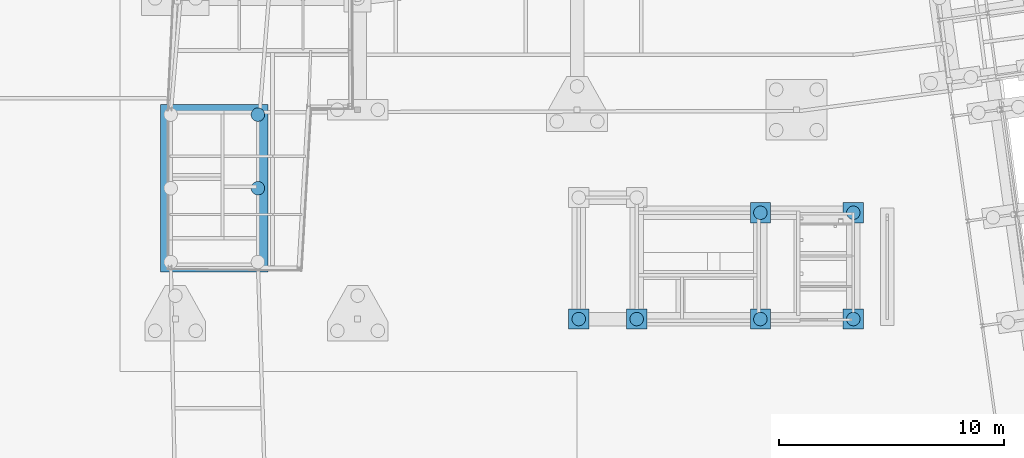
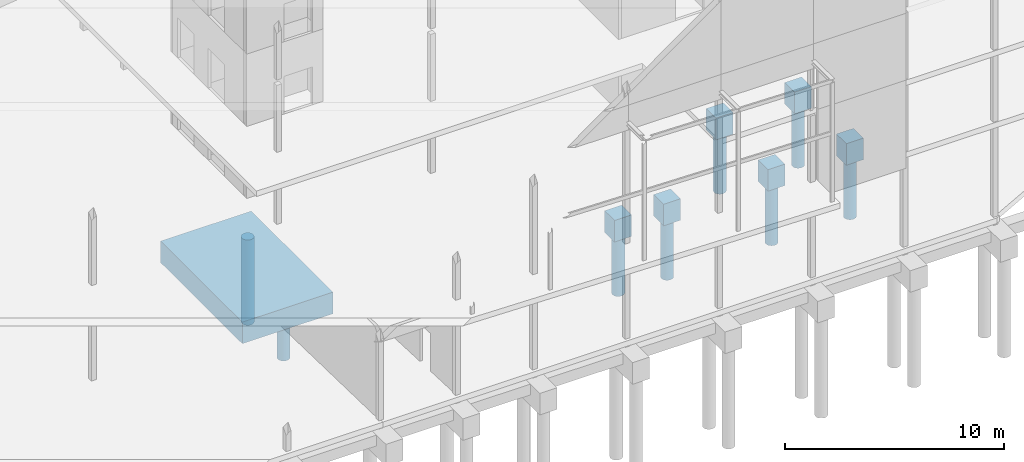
# One storey, part 45 of 82: 15 columns.
"""IFC2X3 building model written with IfcOpenShell, lengths in millimetres."""

import ifcopenshell
import ifcopenshell.guid

model = None  # the IFC model being written
_history = None  # IfcOwnerHistory: only IFC2X3 demands one
_inside = {}  # id of a spatial element -> (the spatial element, [elements in it])
_under = {}  # id of a project, library or spatial element -> (it, [spatial elements below it])
_declared = {}  # id of a project -> (the project, [libraries it declares])
_typed = {}  # id of a type object -> (the type object, [elements of that type])
_made_of = {}  # id of a material, layer set ... -> (it, [elements and type objects made of it])


def new_model(schema):
    """Start an empty IFC model of exactly this schema.

    Asked for "IFC4X3", IfcOpenShell would pick the latest addendum, in which some entities
    have other attributes; the version numbers below select the first issue.
    IFC2X3 requires an IfcOwnerHistory on every rooted entity: one is made here for all.
    """
    global model, _history
    if schema == "IFC4X3":
        model = ifcopenshell.file(schema_version=(4, 3, 0, 0))
    else:
        model = ifcopenshell.file(schema=schema)
    _inside.clear()
    _under.clear()
    _declared.clear()
    _typed.clear()
    _made_of.clear()
    _history = None
    if model.schema == "IFC2X3":
        org = make("IfcOrganization", Name="unknown")
        user = make(
            "IfcPersonAndOrganization",
            ThePerson=make("IfcPerson", FamilyName="unknown"),
            TheOrganization=org,
        )
        app = make(
            "IfcApplication",
            ApplicationDeveloper=org,
            Version="unknown",
            ApplicationFullName="unknown",
            ApplicationIdentifier="unknown",
        )
        _history = make(
            "IfcOwnerHistory",
            OwningUser=user,
            OwningApplication=app,
            ChangeAction="ADDED",
            CreationDate=0,
        )
    return model


def make(cls, **values):
    """One entity of the class cls with the attributes given. An attribute that is None is left unset."""
    return model.create_entity(
        cls, **{name: value for name, value in values.items() if value is not None}
    )


def rooted(cls, **values):
    """An entity with a GlobalId (a new one), such as an element, a storey or a relation."""
    return make(cls, GlobalId=ifcopenshell.guid.new(), OwnerHistory=_history, **values)


def si_unit(unit_type, name, prefix=None):
    """IfcSIUnit, for example si_unit("LENGTHUNIT", "METRE", prefix="MILLI")."""
    return make("IfcSIUnit", UnitType=unit_type, Prefix=prefix, Name=name)


def assignment(units):
    """IfcUnitAssignment: the units of a project."""
    return None if units is None else make("IfcUnitAssignment", Units=units)


def point(xyz):
    """IfcCartesianPoint."""
    return None if xyz is None else make("IfcCartesianPoint", Coordinates=xyz)


def direction(xyz):
    """IfcDirection."""
    return None if xyz is None else make("IfcDirection", DirectionRatios=xyz)


def frame(location, z_axis=None, x_axis=None):
    """IfcAxis2Placement3D, a coordinate frame: its origin and axes. An axis left out is left unset."""
    return make(
        "IfcAxis2Placement3D",
        Location=point(location),
        Axis=direction(z_axis),
        RefDirection=direction(x_axis),
    )


def frame_2d(location, x_axis=None):
    """IfcAxis2Placement2D, a coordinate frame in the plane: its origin and x axis."""
    return make(
        "IfcAxis2Placement2D", Location=point(location), RefDirection=direction(x_axis)
    )


def origin_with_axes():
    """The frame at (0, 0, 0) with the z axis (0, 0, 1) and the x axis (1, 0, 0) written out."""
    return frame((0.0, 0.0, 0.0), z_axis=(0.0, 0.0, 1.0), x_axis=(1.0, 0.0, 0.0))


def place(relative_to, where):
    """IfcLocalPlacement: puts the frame where relative to a parent placement (None: the world)."""
    return make(
        "IfcLocalPlacement", PlacementRelTo=relative_to, RelativePlacement=where
    )


def context(
    kind, dimensions, precision=None, world=None, true_north=None, identifier=None
):
    """IfcGeometricRepresentationContext, for example the 3D "Model" context."""
    return make(
        "IfcGeometricRepresentationContext",
        ContextIdentifier=identifier,
        ContextType=kind,
        CoordinateSpaceDimension=dimensions,
        Precision=precision,
        WorldCoordinateSystem=world,
        TrueNorth=true_north,
    )


def subcontext(parent, identifier, kind, view, scale=None):
    """IfcGeometricRepresentationSubContext, for example "Body" below "Model"."""
    return make(
        "IfcGeometricRepresentationSubContext",
        ContextIdentifier=identifier,
        ContextType=kind,
        ParentContext=parent,
        TargetScale=scale,
        TargetView=view,
    )


def project(units=None, contexts=None):
    """IfcProject with its units and contexts."""
    return rooted(
        "IfcProject",
        Name="project",
        RepresentationContexts=contexts,
        UnitsInContext=assignment(units),
    )


def spatial(cls, under=None, at=None, **own):
    """A site, building, storey or space (cls), placed at a placement, below another one or the project."""
    s = rooted(cls, ObjectPlacement=at, **own)
    if under is not None:
        _under.setdefault(under.id(), (under, []))[1].append(s)
    return s


def polyline(points):
    """IfcPolyline through the points."""
    return make("IfcPolyline", Points=[point(p) for p in points])


def profile(cls, at=None, kind="AREA", **sizes):
    """A parametric profile (cls). Its sizes go by their IFC names, for example OverallWidth=200.0."""
    return make(cls, ProfileType=kind, Position=at, **sizes)


def rectangle(**sizes):
    """IfcRectangleProfileDef."""
    return profile("IfcRectangleProfileDef", **sizes)


def circle(**sizes):
    """IfcCircleProfileDef."""
    return profile("IfcCircleProfileDef", **sizes)


def outline(outer, holes=None, kind="AREA"):
    """IfcArbitraryClosedProfileDef: a profile drawn as a closed curve; with holes, ...WithVoids."""
    if holes is None:
        return make("IfcArbitraryClosedProfileDef", ProfileType=kind, OuterCurve=outer)
    return make(
        "IfcArbitraryProfileDefWithVoids",
        ProfileType=kind,
        OuterCurve=outer,
        InnerCurves=holes,
    )


def extrude(swept, where, along, depth):
    """IfcExtrudedAreaSolid: the profile swept, set in the frame where, extruded along a direction by depth."""
    return make(
        "IfcExtrudedAreaSolid",
        SweptArea=swept,
        Position=where,
        ExtrudedDirection=direction(along),
        Depth=depth,
    )


def shape(context_of_items, identifier, shape_type, items):
    """IfcShapeRepresentation: the items that make up one representation, for example the "Body"."""
    return make(
        "IfcShapeRepresentation",
        ContextOfItems=context_of_items,
        RepresentationIdentifier=identifier,
        RepresentationType=shape_type,
        Items=items,
    )


def material(Name=None, Category=None):
    """IfcMaterial."""
    return make("IfcMaterial", Name=Name, Category=Category)


def made_of(thing, what):
    """Note that an element or type object is made of a material, layer set ...; save() writes the relation."""
    if what is not None:
        _made_of.setdefault(what.id(), (what, []))[1].append(thing)
    return thing


def type_object(cls, material=None, **own):
    """A type object (cls), such as IfcWallType, which elements share."""
    return made_of(rooted(cls, **own), material)


def element(
    cls,
    number,
    at=None,
    inside=None,
    cuts=None,
    type_object=None,
    material=None,
    context=None,
    identifier="Body",
    shape_type=None,
    held_by="IfcProductDefinitionShape",
    body=None,
    shapes=None,
    **own,
):
    """One element of the class cls, such as IfcWall. Its Tag is "e" and its number.

    at: its placement. inside: the storey or other place that contains it. cuts: it is an
    opening in that element (IfcRelVoidsElement). A single representation is given by context,
    identifier, shape_type and body (its items); several are given by shapes. held_by: the class
    of the entity that holds the representations. save() writes the other relations.
    """
    e = rooted(cls, Tag="e%d" % number, ObjectPlacement=at, **own)
    if body is not None:
        shapes = [shape(context, identifier, shape_type, body)]
    if shapes is not None:
        e.Representation = make(held_by, Representations=shapes)
    if inside is not None:
        _inside.setdefault(inside.id(), (inside, []))[1].append(e)
    if cuts is not None:
        rooted(
            "IfcRelVoidsElement", RelatingBuildingElement=cuts, RelatedOpeningElement=e
        )
    if type_object is not None:
        _typed.setdefault(type_object.id(), (type_object, []))[1].append(e)
    return made_of(e, material)


def aggregate(whole, parts):
    """IfcRelAggregates: a whole, such as a stair, and the parts it consists of."""
    return rooted("IfcRelAggregates", RelatingObject=whole, RelatedObjects=parts)


def save(model, path):
    """Write the relations noted so far, then the file.

    IfcRelAggregates (storeys below a building ...), IfcRelContainedInSpatialStructure (elements
    in a storey), IfcRelDefinesByType, IfcRelAssociatesMaterial and IfcRelDeclares: one each for
    every whole, place, type object, material and project.
    """
    for whole, parts in _under.values():
        aggregate(whole, parts)
    for where, things in _inside.values():
        rooted(
            "IfcRelContainedInSpatialStructure",
            RelatedElements=things,
            RelatingStructure=where,
        )
    for kind, things in _typed.values():
        rooted("IfcRelDefinesByType", RelatedObjects=things, RelatingType=kind)
    for what, things in _made_of.values():
        rooted("IfcRelAssociatesMaterial", RelatedObjects=things, RelatingMaterial=what)
    for by, libraries in _declared.values():
        rooted("IfcRelDeclares", RelatingContext=by, RelatedDefinitions=libraries)
    model.write(path)


model = new_model("IFC2X3")

# Units and contexts
model_context = context("Model", 3, precision=1e-05, world=origin_with_axes())
body_context = subcontext(model_context, "Body", "Model", "MODEL_VIEW")
ifc_project = project(units=[si_unit("LENGTHUNIT", "METRE", prefix="MILLI"), si_unit("AREAUNIT", "SQUARE_METRE"), si_unit("VOLUMEUNIT", "CUBIC_METRE"), si_unit("MASSUNIT", "GRAM", prefix="KILO"), si_unit("TIMEUNIT", "SECOND"), si_unit("PLANEANGLEUNIT", "RADIAN"), si_unit("SOLIDANGLEUNIT", "STERADIAN"), si_unit("THERMODYNAMICTEMPERATUREUNIT", "DEGREE_CELSIUS"), si_unit("LUMINOUSINTENSITYUNIT", "LUMEN")], contexts=[model_context])

# Site, building, storey
site_placement = place(None, origin_with_axes())
site = spatial("IfcSite", under=ifc_project, at=site_placement, Name="Undefined", CompositionType="ELEMENT")
building_placement = place(site_placement, origin_with_axes())
building = spatial("IfcBuilding", under=site, at=building_placement, Name="Undefined", CompositionType="ELEMENT")
storey_placement = place(building_placement, origin_with_axes())
storey = spatial("IfcBuildingStorey", under=building, at=storey_placement, Name="Undefined", CompositionType="ELEMENT", Elevation=0.0)

# Columns
ifc_material_1 = material(Name="CONCRETE/C30/37")
column_type_1 = type_object("IfcColumnType", Name="900*900", PredefinedType="NOTDEFINED")
for number, where, z_axis, x_axis, name in (
    (1, (59374.9998241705, 14025.0006238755, -1649.97), (0.0, 0.0, 1.0), (1.0, 0.0, 0.0), "SEMELLE"),
    (2, (55246.3783571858, 9299.99663895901, -1649.97), (0.0, 0.0, 1.0), (1.0, 0.0, 0.0), "SEMELLE"),
    (3, (55246.3783575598, 14024.9962230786, -1649.97), (0.0, 0.0, 1.0), (1.0, 0.0, 0.0), "SEMELLE"),
    (4, (49749.9993702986, 9300.00000003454, -1649.97), (0.0, 0.0, 1.0), (1.0, 0.0, 0.0), "SEMELLE"),
    (5, (47175.0008960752, 9300.00000033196, -1649.97), (0.0, 0.0, 1.0), (1.0, 0.0, 0.0), "SEMELLE"),
    (6, (59374.9993182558, 9300.0099658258, -1649.97), (0.0, 0.0, 1.0), (1.0, 0.0, 0.0), "SEMELLE"),
):
    element("IfcColumn", number, at=place(storey_placement, frame(where, z_axis=z_axis, x_axis=x_axis)), inside=storey, type_object=column_type_1, material=ifc_material_1, Name=name, ObjectType="900*900", context=body_context, shape_type="SweptSolid", body=[
        extrude(rectangle(XDim=900.0, YDim=900.0, at=frame_2d((5.17284206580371e-08, 4.49290382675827e-10), x_axis=(1.0, 0.0))), frame((0.0, 0.0, 1199.97), z_axis=(0.0, -6.50000002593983e-08, -0.999999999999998), x_axis=(2.09600000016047e-06, -0.999999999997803, 0.0)), (0.0, 0.0, 1.0), 1200.0),
    ])
column_type_2 = type_object("IfcColumnType", Name="1200*4775", PredefinedType="NOTDEFINED")
column_placement = place(storey_placement, frame((28592.5108590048, 18839.7763382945, -1900.0), z_axis=(0.0, 0.0, 1.0), x_axis=(-2.16299999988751e-06, -0.999999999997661, 0.0)))
element("IfcColumn", 7, at=column_placement, inside=storey, type_object=column_type_2, material=ifc_material_1, Name="SEMELLE", ObjectType="1200*4775", context=body_context, shape_type="SweptSolid", body=[
    extrude(outline(polyline([(5.17284206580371e-08, 4.49290382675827e-10), (7450.01611327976, -2.30647856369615e-09), (7450.00244140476, 4774.97070312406), (-0.0135816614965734, 4774.97070312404), (5.17284206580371e-08, 4.49290382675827e-10)])), frame((0.0, 0.0, -600.0), z_axis=(0.0, 0.0, 1.0), x_axis=(1.0, 0.0, 0.0)), (0.0, 0.0, 1.0), 1200.0),
])
ifc_material_2 = material(Name="CONCRETE/C25/30")
column_type_3 = type_object("IfcColumnType", Name="D600", PredefinedType="NOTDEFINED")
for number, where, z_axis, x_axis in (
    (8, (47175.511681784, 9300.00000008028, -4899.97000062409), (0.0, 0.0, 1.0), (1.0, 0.0, 0.0)),
    (9, (49749.9993703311, 9300.00000021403, -4899.97000062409), (0.0, 0.0, 1.0), (1.0, 0.0, 0.0)),
    (10, (55246.3882611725, 14024.9962231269, -4899.97000062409), (0.0, 0.0, 1.0), (1.0, 0.0, 0.0)),
    (11, (55246.3783577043, 9300.00000006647, -4899.97000062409), (0.0, 0.0, 1.0), (1.0, 0.0, 0.0)),
    (12, (59375.0097288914, 9300.00996598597, -4899.97000062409), (0.0, 0.0, 1.0), (1.0, 0.0, 0.0)),
    (13, (59374.9998248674, 14025.0006240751, -4899.97000062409), (0.0, 0.0, 1.0), (1.0, 0.0, 0.0)),
):
    element("IfcColumn", number, at=place(storey_placement, frame(where, z_axis=z_axis, x_axis=x_axis)), inside=storey, type_object=column_type_3, material=ifc_material_2, Name="PIEU", ObjectType="D600", context=body_context, shape_type="SweptSolid", body=[
        extrude(circle(Radius=300.0, at=frame_2d((5.17284206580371e-08, 4.49290382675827e-10), x_axis=(1.0, 0.0))), frame((0.0, 0.0, 3250.0), z_axis=(0.0, -6.50000002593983e-08, -0.999999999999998), x_axis=(-0.132256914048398, 0.991215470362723, 0.0)), (0.0, 0.0, 1.0), 3250.0),
    ])
for number, where, z_axis, x_axis in (
    (14, (32917.4839194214, 15114.7671013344, -7025.0), (0.0, 0.0, 1.0), (1.0, 0.0, 0.0)),
    (15, (32917.4816766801, 18384.7771012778, -7025.0), (0.0, 0.0, 1.0), (1.0, 0.0, 0.0)),
):
    element("IfcColumn", number, at=place(storey_placement, frame(where, z_axis=z_axis, x_axis=x_axis)), inside=storey, type_object=column_type_3, material=ifc_material_2, Name="PIEU", ObjectType="D600", context=body_context, shape_type="SweptSolid", body=[
        extrude(circle(Radius=300.0, at=frame_2d((5.17284206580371e-08, 4.49290382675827e-10), x_axis=(1.0, 0.0))), frame((0.0, 0.0, 4750.0), z_axis=(0.0, -6.50000002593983e-08, -0.999999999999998), x_axis=(1.0, 0.0, 0.0)), (0.0, 0.0, 1.0), 4750.0),
    ])

save(model, "model.ifc")
